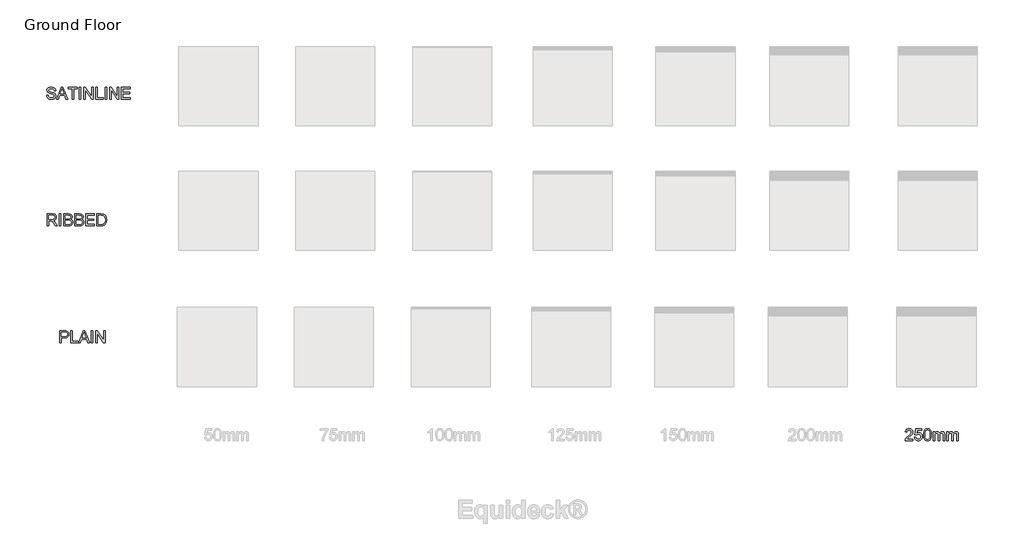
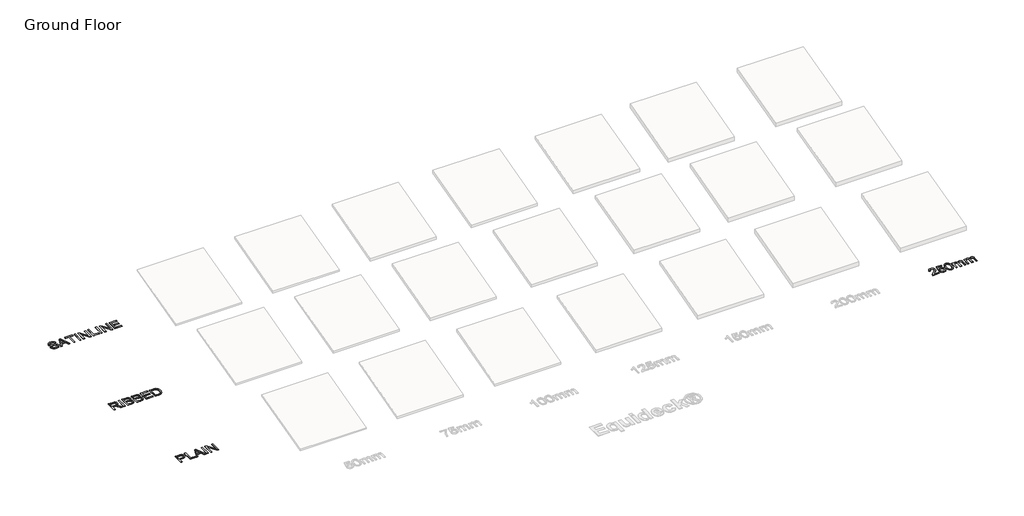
# One storey, part 3 of 3: 4 proxies.
"""IFC4 building model written with IfcOpenShell, lengths in millimetres."""

from ifc_helpers import new_model, si_unit, origin, origin_with_axes, place, context, project, spatial, polyline, outline, extrude, element, save

model = new_model("IFC4")

# Units and contexts
model_context = context("Model", 3, world=origin())
ifc_project = project(units=[si_unit("LENGTHUNIT", "METRE", prefix="MILLI")], contexts=[model_context])

# Site, building, storey
site = spatial("IfcSite", under=ifc_project)
building = spatial("IfcBuilding", under=site)
storey = spatial("IfcBuildingStorey", under=building, Name="Ground Floor", Elevation=0.0)

# Proxies
placement = place(None, origin())
element("IfcBuildingElementProxy", 1, Name="600mm Arial", ObjectType="600mm Arial", at=placement, inside=storey, context=model_context, shape_type="SweptSolid", body=[
    extrude(outline(polyline([(-15403.839663, 2451.9959966), (-15403.839663, 3054.7338575), (-15180.4617155, 3054.7338575), (-15128.4432014, 3053.2991177), (-15090.4042031, 3048.9948984), (-15050.2498833, 3038.2711382), (-15017.1956861, 3020.8151376), (-14990.5794237, 2995.8359501), (-14969.7389087, 2962.5426295), (-14956.2744277, 2923.2712265), (-14951.7862673, 2880.3577918), (-14954.8166953, 2843.3580601), (-14963.9079791, 2809.3197785), (-14979.0601187, 2778.242947), (-15000.2731143, 2750.1275655), (-15029.3955727, 2726.8222411), (-15068.2761011, 2710.1755808), (-15116.9146994, 2700.1875847), (-15175.3113676, 2696.8582526), (-15328.4974304, 2696.8582526), (-15328.4974304, 2451.9959966), (-15403.839663, 2451.9959966)]), holes=[polyline([(-15328.4974304, 2772.2004852), (-15170.8967836, 2772.2004852), (-15134.6604071, 2773.9295306), (-15104.0894133, 2779.1166667), (-15079.1838023, 2787.7618936), (-15059.9435739, 2799.8652113), (-15045.586979, 2815.1047229), (-15035.3322684, 2833.1585318), (-15029.1794421, 2854.026638), (-15027.1284999, 2877.7090414), (-15031.9661482, 2911.554185), (-15046.4790929, 2940.1018278), (-15068.8647123, 2961.5861363), (-15097.3203846, 2974.241277), (-15126.3830622, 2978.1040379), (-15172.6626172, 2979.3916249), (-15328.4974304, 2979.3916249), (-15328.4974304, 2772.2004852)])]), origin_with_axes(), (0.0, 0.0, 1.0), 20.0),
    extrude(outline(polyline([(-14848.1906975, 2451.9959966), (-14848.1906975, 3054.7338575), (-14772.8484649, 3054.7338575), (-14772.8484649, 2527.3382292), (-14471.4795344, 2527.3382292), (-14471.4795344, 2451.9959966), (-14848.1906975, 2451.9959966)])), origin_with_axes(), (0.0, 0.0, 1.0), 20.0),
    extrude(outline(polyline([(-14456.9114074, 2451.9959966), (-14216.3165826, 3054.7338575), (-14152.1579626, 3054.7338575), (-13911.5631378, 2451.9959966), (-13991.1728015, 2451.9959966), (-14060.1874638, 2640.3515782), (-14308.4342342, 2640.3515782), (-14377.3017437, 2451.9959966), (-14456.9114074, 2451.9959966)]), holes=[polyline([(-14280.7695081, 2715.6938108), (-14087.705037, 2715.6938108), (-14142.0044195, 2863.8766784), (-14184.2372726, 2979.3916249), (-14221.7612361, 2876.8261247), (-14280.7695081, 2715.6938108)])]), origin_with_axes(), (0.0, 0.0, 1.0), 20.0),
    extrude(outline(polyline([(-13821.6527781, 2451.9959966), (-13821.6527781, 3054.7338575), (-13746.3105455, 3054.7338575), (-13746.3105455, 2451.9959966), (-13821.6527781, 2451.9959966)])), origin_with_axes(), (0.0, 0.0, 1.0), 20.0),
    extrude(outline(polyline([(-13595.6260803, 2451.9959966), (-13595.6260803, 3054.7338575), (-13514.986347, 3054.7338575), (-13200.0793591, 2577.2230278), (-13200.0793591, 3054.7338575), (-13124.7371265, 3054.7338575), (-13124.7371265, 2451.9959966), (-13205.3768598, 2451.9959966), (-13520.2838477, 2929.6539792), (-13520.2838477, 2451.9959966), (-13595.6260803, 2451.9959966)])), origin_with_axes(), (0.0, 0.0, 1.0), 20.0),
])
element("IfcBuildingElementProxy", 2, Name="600mm Arial", ObjectType="600mm Arial", at=placement, inside=storey, context=model_context, shape_type="SweptSolid", body=[
    extrude(outline(polyline([(-16053.6664193, 8356.7959966), (-16053.6664193, 8959.5338575), (-15793.9417307, 8959.5338575), (-15724.1361221, 8955.4687615), (-15673.3500127, 8943.2734733), (-15653.7510994, 8933.5797828), (-15636.2307193, 8920.7590952), (-15620.7888726, 8904.8114107), (-15607.4255591, 8885.7367293), (-15596.6420181, 8864.5605219), (-15588.9394889, 8842.3082598), (-15584.3179713, 8818.9799427), (-15582.7774654, 8794.5755709), (-15585.3296468, 8763.618301), (-15592.9861908, 8735.1994169), (-15605.7470975, 8709.3189185), (-15623.6123669, 8685.9768059), (-15646.8119252, 8665.9180401), (-15675.5756987, 8649.8875822), (-15709.9036874, 8637.8854321), (-15749.7958913, 8629.9115898), (-15724.9638566, 8613.6879939), (-15706.974427, 8597.6851271), (-15676.1091276, 8561.0808685), (-15645.9060158, 8520.1356025), (-15545.4006547, 8356.7959966), (-15632.9565696, 8356.7959966), (-15711.389011, 8481.7287222), (-15768.0428382, 8564.4285947), (-15789.1040824, 8588.5432595), (-15807.8476701, 8603.4976626), (-15843.6793764, 8617.8450604), (-15887.3837575, 8620.4938108), (-15978.3241867, 8620.4938108), (-15978.3241867, 8356.7959966), (-16053.6664193, 8356.7959966)]), holes=[polyline([(-15978.3241867, 8695.8360434), (-15809.6870801, 8695.8360434), (-15761.2554154, 8698.5031878), (-15723.6762696, 8706.5046212), (-15695.3861442, 8720.3737725), (-15674.8215406, 8740.6440704), (-15662.2951587, 8765.1634054), (-15658.1196981, 8791.7796677), (-15660.1108594, 8811.0474872), (-15666.0843433, 8828.531079), (-15676.0401497, 8844.2304432), (-15689.9782788, 8858.1455796), (-15708.2206273, 8869.5407245), (-15731.0890918, 8877.6801136), (-15758.5836724, 8882.5637471), (-15790.7043691, 8884.1916249), (-15978.3241867, 8884.1916249), (-15978.3241867, 8695.8360434)])]), origin_with_axes(), (0.0, 0.0, 1.0), 20.0),
    extrude(outline(polyline([(-15441.5107793, 8356.7959966), (-15441.5107793, 8959.5338575), (-15366.1685467, 8959.5338575), (-15366.1685467, 8356.7959966), (-15441.5107793, 8356.7959966)])), origin_with_axes(), (0.0, 0.0, 1.0), 20.0),
    extrude(outline(polyline([(-15215.4840815, 8356.7959966), (-15215.4840815, 8959.5338575), (-14985.4842581, 8959.5338575), (-14922.226949, 8955.1008795), (-14872.8387912, 8941.8019454), (-14852.7616313, 8931.7449713), (-14834.9837339, 8919.3059613), (-14819.5050989, 8904.4849155), (-14806.3257264, 8887.2818337), (-14788.2811146, 8849.6107174), (-14782.2662439, 8810.1737675), (-14787.3246214, 8773.8822087), (-14802.4997537, 8739.7611536), (-14827.9020054, 8709.9075297), (-14863.6417413, 8686.4182643), (-14840.9020354, 8676.7245737), (-14820.9490357, 8664.1246154), (-14803.7827421, 8648.6183893), (-14789.4031546, 8630.2058954), (-14778.0401995, 8609.4481539), (-14769.923803, 8586.9061846), (-14765.0539651, 8562.5799877), (-14763.4306858, 8536.4695631), (-14767.8636638, 8494.4390451), (-14781.162598, 8455.4619477), (-14801.0098316, 8422.31578), (-14825.0877082, 8397.7780509), (-14854.5734501, 8380.0093505), (-14890.6442797, 8367.1702689), (-14934.4774194, 8359.3895647), (-14987.2500917, 8356.7959966), (-15215.4840815, 8356.7959966)]), holes=[polyline([(-15140.1418489, 8432.1382292), (-14985.6314109, 8432.1382292), (-14929.7133476, 8435.0812852), (-14903.7592729, 8441.6111906), (-14882.403723, 8451.4888222), (-14865.0396929, 8465.6338849), (-14851.060177, 8484.9660837), (-14841.8447331, 8508.620896), (-14838.7729184, 8535.7337991), (-14842.378162, 8567.2244979), (-14853.1938926, 8594.3006127), (-14872.0846331, 8615.4722215), (-14899.914906, 8629.2494023), (-14939.3334618, 8636.8093773), (-14992.9890508, 8639.3293689), (-15140.1418489, 8639.3293689), (-15140.1418489, 8432.1382292)]), polyline([(-15140.1418489, 8714.6716015), (-15002.5539827, 8714.6716015), (-14954.4350177, 8716.2902823), (-14922.2085549, 8721.1463246), (-14894.0839764, 8732.3115432), (-14873.8688607, 8749.0317799), (-14861.6735726, 8771.0495173), (-14857.6084766, 8798.107238), (-14861.3976611, 8824.3740125), (-14872.7652148, 8847.2562726), (-14891.1961027, 8865.1169435), (-14916.1752902, 8876.3189502), (-14954.5085941, 8882.2234562), (-15013.0018313, 8884.1916249), (-15140.1418489, 8884.1916249), (-15140.1418489, 8714.6716015)])]), origin_with_axes(), (0.0, 0.0, 1.0), 20.0),
    extrude(outline(polyline([(-14659.8351159, 8356.7959966), (-14659.8351159, 8959.5338575), (-14429.8352926, 8959.5338575), (-14366.5779835, 8955.1008795), (-14317.1898256, 8941.8019454), (-14297.1126658, 8931.7449713), (-14279.3347683, 8919.3059613), (-14263.8561334, 8904.4849155), (-14250.6767609, 8887.2818337), (-14232.632149, 8849.6107174), (-14226.6172784, 8810.1737675), (-14231.6756559, 8773.8822087), (-14246.8507882, 8739.7611536), (-14272.2530399, 8709.9075297), (-14307.9927758, 8686.4182643), (-14285.2530699, 8676.7245737), (-14265.3000702, 8664.1246154), (-14248.1337766, 8648.6183893), (-14233.7541891, 8630.2058954), (-14222.391234, 8609.4481539), (-14214.2748375, 8586.9061846), (-14209.4049996, 8562.5799877), (-14207.7817203, 8536.4695631), (-14212.2146983, 8494.4390451), (-14225.5136324, 8455.4619477), (-14245.3608661, 8422.31578), (-14269.4387427, 8397.7780509), (-14298.9244846, 8380.0093505), (-14334.9953142, 8367.1702689), (-14378.8284539, 8359.3895647), (-14431.6011261, 8356.7959966), (-14659.8351159, 8356.7959966)]), holes=[polyline([(-14584.4928833, 8432.1382292), (-14429.9824454, 8432.1382292), (-14374.0643821, 8435.0812852), (-14348.1103073, 8441.6111906), (-14326.7547575, 8451.4888222), (-14309.3907273, 8465.6338849), (-14295.4112115, 8484.9660837), (-14286.1957675, 8508.620896), (-14283.1239529, 8535.7337991), (-14286.7291964, 8567.2244979), (-14297.5449271, 8594.3006127), (-14316.4356676, 8615.4722215), (-14344.2659405, 8629.2494023), (-14383.6844963, 8636.8093773), (-14437.3400853, 8639.3293689), (-14584.4928833, 8639.3293689), (-14584.4928833, 8432.1382292)]), polyline([(-14584.4928833, 8714.6716015), (-14446.9050171, 8714.6716015), (-14398.7860522, 8716.2902823), (-14366.5595894, 8721.1463246), (-14338.4350109, 8732.3115432), (-14318.2198952, 8749.0317799), (-14306.0246071, 8771.0495173), (-14301.959511, 8798.107238), (-14305.7486956, 8824.3740125), (-14317.1162492, 8847.2562726), (-14335.5471372, 8865.1169435), (-14360.5263247, 8876.3189502), (-14398.8596286, 8882.2234562), (-14457.3528658, 8884.1916249), (-14584.4928833, 8884.1916249), (-14584.4928833, 8714.6716015)])]), origin_with_axes(), (0.0, 0.0, 1.0), 20.0),
    extrude(outline(polyline([(-14104.1861504, 8356.7959966), (-14104.1861504, 8959.5338575), (-13670.9683129, 8959.5338575), (-13670.9683129, 8884.1916249), (-14028.8439178, 8884.1916249), (-14028.8439178, 8705.2538225), (-13689.8038711, 8705.2538225), (-13689.8038711, 8629.9115898), (-14028.8439178, 8629.9115898), (-14028.8439178, 8432.1382292), (-13661.5505338, 8432.1382292), (-13661.5505338, 8356.7959966), (-14104.1861504, 8356.7959966)])), origin_with_axes(), (0.0, 0.0, 1.0), 20.0),
    extrude(outline(polyline([(-13548.5371849, 8356.7959966), (-13548.5371849, 8959.5338575), (-13340.6102812, 8959.5338575), (-13278.4750123, 8957.3633537), (-13233.0415859, 8950.8518424), (-13184.9961973, 8934.1132117), (-13144.4556014, 8907.7360726), (-13122.1159673, 8886.1781877), (-13102.7745714, 8861.8243996), (-13086.4314137, 8834.6747084), (-13073.0864944, 8804.7291139), (-13062.7214191, 8772.2635279), (-13055.317794, 8737.5538616), (-13049.3948939, 8661.4022886), (-13053.4048076, 8596.7102398), (-13065.4345489, 8539.780501), (-13083.7550722, 8491.3120482), (-13106.6373323, 8452.003857), (-13132.9776832, 8420.9730107), (-13161.6724788, 8397.3365925), (-13194.6163115, 8379.8070154), (-13233.7037734, 8367.0966925), (-13279.0084412, 8359.3711706), (-13330.603891, 8356.7959966), (-13548.5371849, 8356.7959966)]), holes=[polyline([(-13473.1949523, 8432.1382292), (-13339.8745173, 8432.1382292), (-13284.7290062, 8434.860556), (-13242.9008233, 8443.0275363), (-13211.3365481, 8456.1609235), (-13186.9827601, 8473.7824711), (-13160.8079561, 8506.39521), (-13141.1446635, 8548.6096689), (-13128.8390107, 8600.6097889), (-13124.7371265, 8662.579511), (-13126.7466819, 8706.3206802), (-13132.7753481, 8744.6907723), (-13142.8231251, 8777.6897873), (-13156.8900129, 8805.3177251), (-13173.8355773, 8828.1999852), (-13192.5193841, 8846.961967), (-13212.9414333, 8861.6036704), (-13235.101725, 8872.1250955), (-13278.4382241, 8881.1749925), (-13341.9346564, 8884.1916249), (-13473.1949523, 8884.1916249), (-13473.1949523, 8432.1382292)])]), origin_with_axes(), (0.0, 0.0, 1.0), 20.0),
])
element("IfcBuildingElementProxy", 3, Name="600mm Arial", ObjectType="600mm Arial", at=placement, inside=storey, context=model_context, shape_type="SweptSolid", body=[
    extrude(outline(polyline([(27688.1049644, -2410.2451374), (27688.1049644, -2485.58737), (27292.5582432, -2485.58737), (27294.2137121, -2459.0630782), (27300.6516471, -2433.6424323), (27319.2296878, -2393.0466541), (27346.4161673, -2353.6648865), (27385.7427525, -2312.443709), (27440.7411108, -2266.3297009), (27522.0430318, -2194.1144652), (27570.8241843, -2140.8083641), (27585.0520205, -2119.02975), (27595.2147606, -2097.5454415), (27601.3124047, -2076.3554386), (27603.3449527, -2055.4597412), (27601.4273678, -2035.8010471), (27595.6746131, -2017.7334426), (27586.0866886, -2001.2569278), (27572.6635943, -1986.3715026), (27556.1502912, -1974.0428572), (27537.2917405, -1965.2366819), (27516.087942, -1959.9529768), (27492.5388957, -1958.1917417), (27467.7298537, -1959.9115901), (27445.5419709, -1965.071135), (27425.9752472, -1973.6703767), (27409.0296828, -1985.709315), (27395.32148, -2000.7832797), (27385.466841, -2018.4876007), (27379.465766, -2038.822278), (27377.3182549, -2061.7873116), (27301.9760222, -2052.3695325), (27308.4553439, -2013.4752085), (27320.2413633, -1979.4921092), (27337.3340805, -1950.4202346), (27359.7334955, -1926.2595845), (27386.9245735, -1907.2676765), (27418.3922796, -1893.702028), (27454.136614, -1885.5626388), (27494.1575765, -1882.8495091), (27534.537224, -1885.8661415), (27570.4746964, -1894.9160386), (27601.9699937, -1909.9992004), (27629.023116, -1931.1156269), (27650.7511463, -1956.7018196), (27666.271168, -1985.1942802), (27675.583181, -2016.5930085), (27678.6871853, -2050.8980045), (27675.3394591, -2086.9320459), (27665.2962807, -2122.340688), (27647.472398, -2158.3563353), (27620.7825593, -2196.2113926), (27578.2370065, -2241.4056957), (27512.8459819, -2299.4390805), (27426.1729838, -2371.9118335), (27392.1806875, -2410.2451374), (27688.1049644, -2410.2451374)])), origin_with_axes(), (0.0, 0.0, 1.0), 20.0),
    extrude(outline(polyline([(27763.447197, -2325.4851257), (27838.7894296, -2316.0673466), (27844.4180241, -2340.2877775), (27852.6217926, -2361.2984379), (27863.4007351, -2379.099328), (27876.7548515, -2393.6904476), (27892.6565508, -2405.0534027), (27911.0782417, -2413.1697993), (27932.0199242, -2418.0396372), (27955.4815985, -2419.6629165), (27984.1763941, -2417.4050407), (28009.4866754, -2410.6314135), (28031.4124423, -2399.3420348), (28049.9536948, -2383.5369045), (28064.6965658, -2363.9977721), (28075.2271879, -2341.5063866), (28081.5455612, -2316.0627481), (28083.6516856, -2287.6668566), (28081.6789184, -2260.8298651), (28075.7606168, -2236.9727177), (28065.8967808, -2216.0954144), (28052.0874104, -2198.1979554), (28034.2865204, -2183.8413605), (28012.4481254, -2173.5866499), (27986.5722256, -2167.4338235), (27956.6588209, -2165.3828814), (27920.1097446, -2168.6570312), (27890.5136381, -2178.4794804), (27866.8772199, -2193.525854), (27848.2072087, -2212.4717768), (27772.8649761, -2203.0539977), (27838.7894296, -1892.2672882), (28130.740581, -1892.2672882), (28130.740581, -1967.6095208), (27899.710688, -1967.6095208), (27867.4842252, -2133.597877), (27894.0728964, -2114.5415897), (27921.3053611, -2100.9299559), (27949.1816193, -2092.7629756), (27977.701671, -2090.0406488), (28014.3933015, -2093.4159661), (28048.0958908, -2103.541918), (28078.8094388, -2120.4185045), (28106.5339457, -2144.0457257), (28129.4851837, -2172.9796446), (28145.8789251, -2205.7763245), (28155.7151699, -2242.4357653), (28158.9939182, -2282.9579671), (28156.0416652, -2321.9902468), (28147.1849062, -2358.3001997), (28132.4236411, -2391.8878258), (28111.75787, -2422.7531252), (28080.4511122, -2454.3633857), (28043.9204301, -2476.9421431), (28002.1658237, -2490.4893976), (27955.1872929, -2495.0051491), (27916.3067645, -2492.1034798), (27881.1878296, -2483.3984721), (27849.830488, -2468.890126), (27822.2347398, -2448.5784413), (27799.2743048, -2423.4750936), (27781.8229027, -2394.5917585), (27769.8805334, -2361.9284359), (27763.447197, -2325.4851257)])), origin_with_axes(), (0.0, 0.0, 1.0), 20.0),
    extrude(outline(polyline([(28224.9183717, -2189.0744819), (28230.4549958, -2092.5974287), (28237.3757758, -2051.6843523), (28247.0648679, -2015.6549094), (28259.4808852, -1984.2147944), (28274.5824411, -1957.0697016), (28292.3695356, -1934.2196312), (28312.8421686, -1915.6645831), (28336.0693181, -1901.3079882), (28362.1199618, -1891.0532776), (28390.9940999, -1884.9004512), (28422.6917324, -1882.8495091), (28469.1184401, -1887.7055514), (28510.6891056, -1902.2736785), (28545.4539541, -1925.983673), (28571.4632112, -1958.2653181), (28591.1081097, -1998.8427022), (28606.7798827, -2047.4399138), (28617.0437904, -2109.1521184), (28620.465093, -2189.0744819), (28614.9836512, -2284.9997121), (28608.1318491, -2325.7748328), (28598.539326, -2361.7582904), (28586.2198777, -2393.212201), (28571.1872997, -2420.3986805), (28553.441592, -2443.3177288), (28532.9827545, -2461.9693459), (28509.7280139, -2476.4225098), (28483.5945967, -2486.7461983), (28454.5825028, -2492.9404114), (28422.6917324, -2495.0051491), (28381.1946433, -2491.4182996), (28344.4064438, -2480.6577513), (28312.3271338, -2462.723504), (28284.9567134, -2437.6155578), (28258.6899389, -2392.2281167), (28239.9279571, -2335.675457), (28228.6707681, -2267.9575787), (28224.9183717, -2189.0744819)]), holes=[polyline([(28300.2606044, -2188.9273291), (28302.4678963, -2254.4241198), (28309.0897722, -2307.4405138), (28320.1262321, -2347.9765112), (28335.5772759, -2376.0321118), (28354.2656812, -2395.1205889), (28375.0142258, -2408.7552153), (28397.8229095, -2416.9359912), (28422.6917324, -2419.6629165), (28447.5605552, -2416.9267941), (28470.3692389, -2408.7184271), (28491.1177835, -2395.0378154), (28509.8061888, -2375.884959), (28525.2572326, -2347.7833731), (28536.2936925, -2307.2565728), (28542.9155684, -2254.3045582), (28545.1228603, -2188.9273291), (28542.9891448, -2125.1641823), (28536.5879981, -2073.0812888), (28525.9194202, -2032.6786487), (28510.9834112, -2003.9562619), (28492.6077055, -1983.9342843), (28471.6200377, -1969.6328718), (28448.0204077, -1961.0520242), (28421.8088156, -1958.1917417), (28397.0687514, -1960.7117334), (28374.6463438, -1968.2717084), (28354.5415927, -1980.8716667), (28336.7544983, -1998.5116084), (28320.7884197, -2029.781578), (28309.3840778, -2071.9408546), (28302.5414727, -2124.9894383), (28300.2606044, -2188.9273291)])]), origin_with_axes(), (0.0, 0.0, 1.0), 20.0),
    extrude(outline(polyline([(28705.2251046, -2485.58737), (28705.2251046, -2042.9517534), (28780.5673373, -2042.9517534), (28780.5673373, -2115.7923885), (28803.2288682, -2082.333521), (28832.3651222, -2056.1219288), (28866.9828179, -2039.180963), (28906.088674, -2033.5339743), (28947.9904333, -2039.2913276), (28965.823513, -2046.4880191), (28981.5780594, -2056.5633872), (29006.6676115, -2084.2097192), (29023.0751485, -2121.0898892), (29050.5375394, -2082.7841764), (29081.8626913, -2055.422953), (29117.0506041, -2039.006219), (29156.1012779, -2033.5339743), (29186.263003, -2035.8102442), (29212.7367111, -2042.6390537), (29235.5224022, -2054.0204029), (29254.6200762, -2069.9542919), (29269.7170336, -2090.6246615), (29280.5005746, -2116.2154528), (29286.9706992, -2146.7266657), (29289.1274074, -2182.1583004), (29289.1274074, -2485.58737), (29213.7851748, -2485.58737), (29213.7851748, -2214.531916), (29212.0377353, -2176.9527702), (29206.7954169, -2151.6240948), (29196.9729676, -2134.2784587), (29181.4851356, -2120.6484308), (29161.5643256, -2111.8192629), (29138.4429422, -2108.8762069), (29117.0919909, -2110.7616022), (29097.6264348, -2116.4177879), (29080.046274, -2125.844764), (29064.3515083, -2139.0425306), (29051.4434488, -2156.3973637), (29042.2234063, -2178.2955394), (29036.6913808, -2204.7370578), (29034.8473723, -2235.7219189), (29034.8473723, -2485.58737), (28959.5051397, -2485.58737), (28959.5051397, -2206.1442065), (28955.1457381, -2163.5434714), (28949.696486, -2146.8232348), (28942.0675331, -2133.1564186), (28931.9553768, -2122.533826), (28919.0565143, -2114.9462599), (28903.3709458, -2110.3937202), (28884.8986711, -2108.8762069), (28855.8727817, -2112.9229089), (28829.1277606, -2125.0630147), (28807.0548409, -2145.0022189), (28792.0452555, -2172.4462157), (28783.4368168, -2210.5220022), (28780.5673373, -2262.3565753), (28780.5673373, -2485.58737), (28705.2251046, -2485.58737)])), origin_with_axes(), (0.0, 0.0, 1.0), 20.0),
    extrude(outline(polyline([(29402.1407563, -2485.58737), (29402.1407563, -2042.9517534), (29477.4829889, -2042.9517534), (29477.4829889, -2115.7923885), (29500.1445198, -2082.333521), (29529.2807738, -2056.1219288), (29563.8984696, -2039.180963), (29603.0043257, -2033.5339743), (29644.9060849, -2039.2913276), (29662.7391646, -2046.4880191), (29678.4937111, -2056.5633872), (29703.5832632, -2084.2097192), (29719.9908001, -2121.0898892), (29747.4531911, -2082.7841764), (29778.778343, -2055.422953), (29813.9662558, -2039.006219), (29853.0169296, -2033.5339743), (29883.1786547, -2035.8102442), (29909.6523628, -2042.6390537), (29932.4380538, -2054.0204029), (29951.5357279, -2069.9542919), (29966.6326853, -2090.6246615), (29977.4162263, -2116.2154528), (29983.8863509, -2146.7266657), (29986.0430591, -2182.1583004), (29986.0430591, -2485.58737), (29910.7008264, -2485.58737), (29910.7008264, -2214.531916), (29908.953387, -2176.9527702), (29903.7110685, -2151.6240948), (29893.8886193, -2134.2784587), (29878.4007873, -2120.6484308), (29858.4799772, -2111.8192629), (29835.3585938, -2108.8762069), (29814.0076425, -2110.7616022), (29794.5420865, -2116.4177879), (29776.9619256, -2125.844764), (29761.26716, -2139.0425306), (29748.3591005, -2156.3973637), (29739.139058, -2178.2955394), (29733.6070325, -2204.7370578), (29731.763024, -2235.7219189), (29731.763024, -2485.58737), (29656.4207914, -2485.58737), (29656.4207914, -2206.1442065), (29652.0613897, -2163.5434714), (29646.6121377, -2146.8232348), (29638.9831848, -2133.1564186), (29628.8710285, -2122.533826), (29615.972166, -2114.9462599), (29600.2865974, -2110.3937202), (29581.8143228, -2108.8762069), (29552.7884333, -2112.9229089), (29526.0434123, -2125.0630147), (29503.9704926, -2145.0022189), (29488.9609072, -2172.4462157), (29480.3524685, -2210.5220022), (29477.4829889, -2262.3565753), (29477.4829889, -2485.58737), (29402.1407563, -2485.58737)])), origin_with_axes(), (0.0, 0.0, 1.0), 20.0),
])
element("IfcBuildingElementProxy", 4, Name="600mm Arial", ObjectType="600mm Arial", at=placement, inside=storey, context=model_context, shape_type="SweptSolid", body=[
    extrude(outline(polyline([(-16081.9197565, 14963.9871363), (-16006.5775239, 14963.9871363), (-15997.932297, 14922.1773476), (-15982.2973122, 14888.5713273), (-15957.9067359, 14861.8998826), (-15922.9947346, 14840.8938207), (-15880.3204231, 14827.2637928), (-15832.6429166, 14822.7204502), (-15790.6675809, 14826.1601468), (-15753.9161696, 14836.4792368), (-15724.1361221, 14852.8131974), (-15703.0748779, 14874.2975059), (-15690.5484959, 14898.9639937), (-15686.3730353, 14924.844492), (-15689.5000322, 14950.0628028), (-15698.8810231, 14971.859811), (-15717.9373105, 14990.4562459), (-15750.0901969, 15006.0728366), (-15859.7926078, 15034.8412086), (-15931.8055084, 15053.8791018), (-15977.8827283, 15071.9972901), (-16015.3882977, 15097.3443596), (-16041.9677718, 15128.0625062), (-16057.8050917, 15163.4895423), (-16063.0841984, 15202.9632804), (-16061.451722, 15225.3994836), (-16056.5542929, 15247.0907257), (-16048.3919112, 15268.0370068), (-16036.9645767, 15288.2383269), (-16022.4010482, 15306.8715499), (-16004.8300844, 15323.11354), (-15984.2516853, 15336.9642971), (-15960.6658509, 15348.4238213), (-15907.6540554, 15363.8196828), (-15848.9768772, 15368.9516366), (-15785.4068684, 15363.5805595), (-15729.7831107, 15347.4673281), (-15705.4477167, 15335.465178), (-15684.0921669, 15320.9430362), (-15665.7164613, 15303.9009028), (-15650.3205998, 15284.3387777), (-15638.0241441, 15262.826878), (-15628.9466558, 15239.9354209), (-15623.0881351, 15215.6644063), (-15620.4485818, 15190.0138341), (-15695.7908144, 15190.0138341), (-15700.8307977, 15214.0549225), (-15709.6231774, 15234.969014), (-15722.1679534, 15252.7561084), (-15738.4651258, 15267.4162059), (-15758.8181972, 15278.8757301), (-15783.5306702, 15287.0611045), (-15812.6025449, 15291.9723291), (-15846.0338212, 15293.609404), (-15880.5319553, 15291.9907232), (-15910.0085002, 15287.1346809), (-15934.4634558, 15279.041277), (-15953.8968222, 15267.7105115), (-15968.7040725, 15254.0896807), (-15979.2806798, 15239.1260805), (-15985.6266443, 15222.8197111), (-15987.7419657, 15205.1705723), (-15986.2428466, 15189.986243), (-15981.7454892, 15176.2182593), (-15974.2498936, 15163.8666213), (-15963.7560597, 15152.931329), (-15947.2381581, 15142.5754509), (-15921.228901, 15132.1092081), (-15840.7363205, 15110.8456288), (-15757.668566, 15090.6489072), (-15707.4158854, 15073.0273597), (-15664.4656625, 15045.6937274), (-15647.8603889, 15029.6264813), (-15634.501674, 15011.9589485), (-15624.2331678, 14992.7830995), (-15616.8985205, 14972.1909048), (-15611.0308027, 14926.7574784), (-15612.7184613, 14903.1900381), (-15617.7814373, 14880.3123765), (-15626.2197306, 14858.1244937), (-15638.0333411, 14836.6263896), (-15653.0153354, 14816.6503972), (-15670.9587797, 14799.0288497), (-15691.8636741, 14783.7617469), (-15715.7300185, 14770.8490888), (-15741.8634357, 14760.5805826), (-15769.5695485, 14753.2459354), (-15829.6998606, 14747.3782175), (-15868.2400981, 14748.9601101), (-15903.5153829, 14753.7057879), (-15935.525715, 14761.6152508), (-15964.2710944, 14772.6884988), (-15989.9262651, 14786.9439261), (-16012.6659709, 14804.3999268), (-16032.4902119, 14825.0565008), (-16049.3989881, 14848.9136482), (-16063.019819, 14875.1988168), (-16072.980224, 14903.1394543), (-16079.2802032, 14932.7355608), (-16081.9197565, 14963.9871363)])), origin_with_axes(), (0.0, 0.0, 1.0), 20.0),
    extrude(outline(polyline([(-15568.2093384, 14756.7959966), (-15327.6145136, 15359.5338575), (-15263.4558936, 15359.5338575), (-15022.8610688, 14756.7959966), (-15102.4707325, 14756.7959966), (-15171.4853948, 14945.1515782), (-15419.7321652, 14945.1515782), (-15488.5996747, 14756.7959966), (-15568.2093384, 14756.7959966)]), holes=[polyline([(-15392.0674391, 15020.4938108), (-15199.0029681, 15020.4938108), (-15253.3023506, 15168.6766784), (-15295.5352036, 15284.1916249), (-15333.0591671, 15181.6261247), (-15392.0674391, 15020.4938108)])]), origin_with_axes(), (0.0, 0.0, 1.0), 20.0),
    extrude(outline(polyline([(-14791.684023, 14756.7959966), (-14791.684023, 15284.1916249), (-14989.4573836, 15284.1916249), (-14989.4573836, 15359.5338575), (-14518.5684298, 15359.5338575), (-14518.5684298, 15284.1916249), (-14716.3417904, 15284.1916249), (-14716.3417904, 14756.7959966), (-14791.684023, 14756.7959966)])), origin_with_axes(), (0.0, 0.0, 1.0), 20.0),
    extrude(outline(polyline([(-14424.390639, 14756.7959966), (-14424.390639, 15359.5338575), (-14349.0484064, 15359.5338575), (-14349.0484064, 14756.7959966), (-14424.390639, 14756.7959966)])), origin_with_axes(), (0.0, 0.0, 1.0), 20.0),
    extrude(outline(polyline([(-14198.3639412, 14756.7959966), (-14198.3639412, 15359.5338575), (-14117.7242079, 15359.5338575), (-13802.81722, 14882.0230278), (-13802.81722, 15359.5338575), (-13727.4749874, 15359.5338575), (-13727.4749874, 14756.7959966), (-13808.1147207, 14756.7959966), (-14123.0217086, 15234.4539792), (-14123.0217086, 14756.7959966), (-14198.3639412, 14756.7959966)])), origin_with_axes(), (0.0, 0.0, 1.0), 20.0),
    extrude(outline(polyline([(-13595.6260803, 14756.7959966), (-13595.6260803, 15359.5338575), (-13520.2838477, 15359.5338575), (-13520.2838477, 14832.1382292), (-13218.9149172, 14832.1382292), (-13218.9149172, 14756.7959966), (-13595.6260803, 14756.7959966)])), origin_with_axes(), (0.0, 0.0, 1.0), 20.0),
    extrude(outline(polyline([(-13124.7371265, 14756.7959966), (-13124.7371265, 15359.5338575), (-13049.3948939, 15359.5338575), (-13049.3948939, 14756.7959966), (-13124.7371265, 14756.7959966)])), origin_with_axes(), (0.0, 0.0, 1.0), 20.0),
    extrude(outline(polyline([(-12898.7104286, 14756.7959966), (-12898.7104286, 15359.5338575), (-12818.0706953, 15359.5338575), (-12503.1637074, 14882.0230278), (-12503.1637074, 15359.5338575), (-12427.8214748, 15359.5338575), (-12427.8214748, 14756.7959966), (-12508.4612082, 14756.7959966), (-12823.368196, 15234.4539792), (-12823.368196, 14756.7959966), (-12898.7104286, 14756.7959966)])), origin_with_axes(), (0.0, 0.0, 1.0), 20.0),
    extrude(outline(polyline([(-12295.9725677, 14756.7959966), (-12295.9725677, 15359.5338575), (-11862.7547302, 15359.5338575), (-11862.7547302, 15284.1916249), (-12220.6303351, 15284.1916249), (-12220.6303351, 15105.2538225), (-11881.5902884, 15105.2538225), (-11881.5902884, 15029.9115898), (-12220.6303351, 15029.9115898), (-12220.6303351, 14832.1382292), (-11853.3369511, 14832.1382292), (-11853.3369511, 14756.7959966), (-12295.9725677, 14756.7959966)])), origin_with_axes(), (0.0, 0.0, 1.0), 20.0),
])

save(model, "model.ifc")
